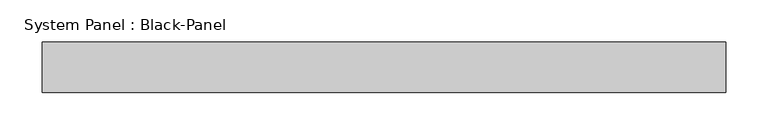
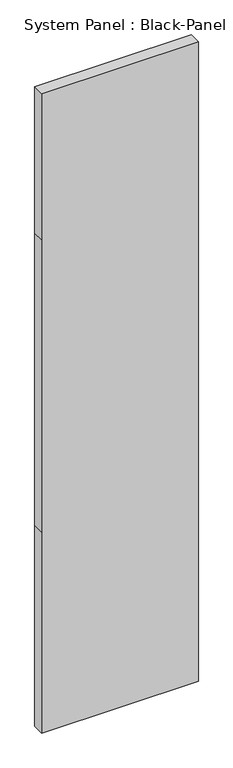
"""IFC4 building model written with IfcOpenShell, lengths in millimetres: plate geometry, System Panel : Black-Panel."""

from ifc_helpers import new_model, si_unit, frame, origin, place, context, project, spatial, polyline, outline, extrude, source, transform, mapped, element, save


def system_panel_black_panel_68769a9a(model_context):
    return source(origin(), model_context, "Body", "SweptSolid", [
        extrude(outline(polyline([(0.0, -406.25), (0.0, 406.25), (1100.0, 406.25), (2700.0, 406.25), (3500.0, 406.25), (3500.0, -406.25), (2700.0, -406.25), (1100.0, -406.25), (0.0, -406.25)])), frame((0.0, -10.5, 0.0), z_axis=(0.0, 1.0, 0.0), x_axis=(0.0, 0.0, 1.0)), (0.0, 0.0, 1.0), 60.0),
    ])


if __name__ == "__main__":
    model = new_model("IFC4")
    model_context = context("Model", 3, world=origin())
    ifc_project = project(units=[si_unit("LENGTHUNIT", "METRE", prefix="MILLI")], contexts=[model_context])
    site = spatial("IfcSite", under=ifc_project)
    building = spatial("IfcBuilding", under=site)
    placement = place(None, origin())
    system_panel_black_panel_shape = system_panel_black_panel_68769a9a(model_context)
    element("IfcPlate", 1, ObjectType="System Panel : Black-Panel", at=placement, inside=building, context=model_context, shape_type="MappedRepresentation", body=[
        mapped(system_panel_black_panel_shape, transform((0.0, 0.0, 0.0), x_axis=(1.0, 0.0, 0.0), y_axis=(0.0, 1.0, 0.0), z_axis=(0.0, 0.0, 1.0))),
    ])
    save(model, "model.ifc")
